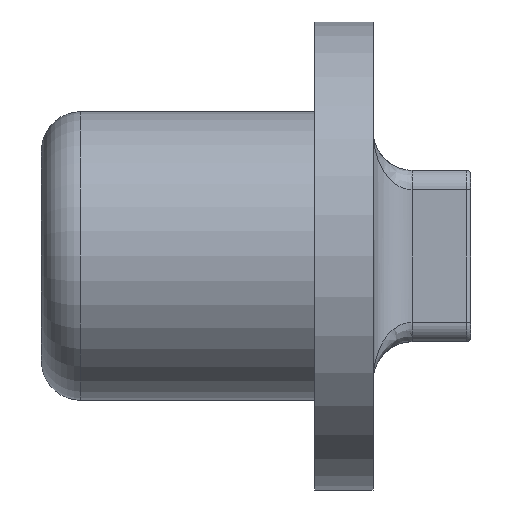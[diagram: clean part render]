
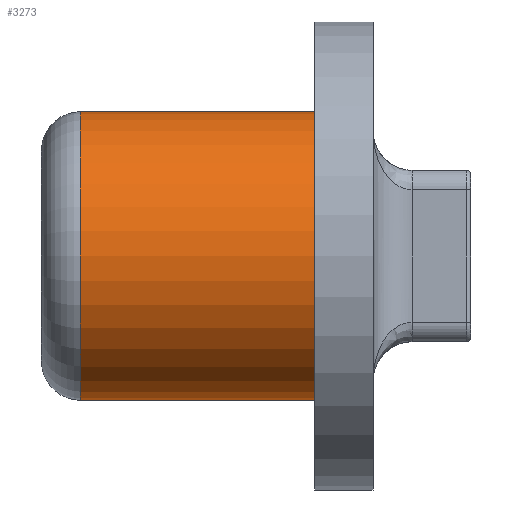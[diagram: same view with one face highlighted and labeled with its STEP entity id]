
A CAD part, front view. The second image highlights one B-rep face of the part: STEP entity #3273.
In plain terms, the highlighted cylindrical face has radius 1.85 mm (diameter 3.7 mm), a partial arc.
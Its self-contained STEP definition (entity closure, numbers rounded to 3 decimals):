
#91=CYLINDRICAL_SURFACE('',#3548,1.85);
#123=CIRCLE('',#3316,1.85);
#219=CIRCLE('',#3522,1.85);
#470=FACE_OUTER_BOUND('',#670,.T.);
#670=EDGE_LOOP('',(#2963,#2964,#2965,#2966));
#854=LINE('',#6319,#1089);
#877=LINE('',#6408,#1112);
#1089=VECTOR('',#4021,10.);
#1112=VECTOR('',#4130,10.);
#1417=VERTEX_POINT('',#5666);
#1418=VERTEX_POINT('',#5668);
#1516=VERTEX_POINT('',#6317);
#1539=VERTEX_POINT('',#6403);
#1785=EDGE_CURVE('',#1417,#1418,#123,.T.);
#1939=EDGE_CURVE('',#1417,#1516,#854,.T.);
#1985=EDGE_CURVE('',#1418,#1539,#877,.T.);
#2027=EDGE_CURVE('',#1539,#1516,#219,.T.);
#2963=ORIENTED_EDGE('',*,*,#2027,.F.);
#2964=ORIENTED_EDGE('',*,*,#1985,.F.);
#2965=ORIENTED_EDGE('',*,*,#1785,.F.);
#2966=ORIENTED_EDGE('',*,*,#1939,.T.);
#3273=ADVANCED_FACE('',(#470),#91,.T.);
#3316=AXIS2_PLACEMENT_3D('',#5669,#3706,#3707);
#3522=AXIS2_PLACEMENT_3D('',#6491,#4234,#4235);
#3548=AXIS2_PLACEMENT_3D('',#6623,#4296,#4297);
#3706=DIRECTION('center_axis',(1.,0.,0.));
#3707=DIRECTION('ref_axis',(0.,0.,1.));
#4021=DIRECTION('',(-1.,0.,0.));
#4130=DIRECTION('',(-1.,0.,0.));
#4234=DIRECTION('center_axis',(-1.,0.,0.));
#4235=DIRECTION('ref_axis',(0.,-1.,0.));
#4296=DIRECTION('center_axis',(-1.,0.,0.));
#4297=DIRECTION('ref_axis',(0.,0.,1.));
#5666=CARTESIAN_POINT('',(2.,26.9,12.25));
#5668=CARTESIAN_POINT('',(2.,26.9,8.55));
#5669=CARTESIAN_POINT('Origin',(2.,26.9,10.4));
#6317=CARTESIAN_POINT('',(-1.,26.9,12.25));
#6319=CARTESIAN_POINT('',(2.,26.9,12.25));
#6403=CARTESIAN_POINT('',(-1.,26.9,8.55));
#6408=CARTESIAN_POINT('',(2.,26.9,8.55));
#6491=CARTESIAN_POINT('Origin',(-1.,26.9,10.4));
#6623=CARTESIAN_POINT('Origin',(2.,26.9,10.4));
